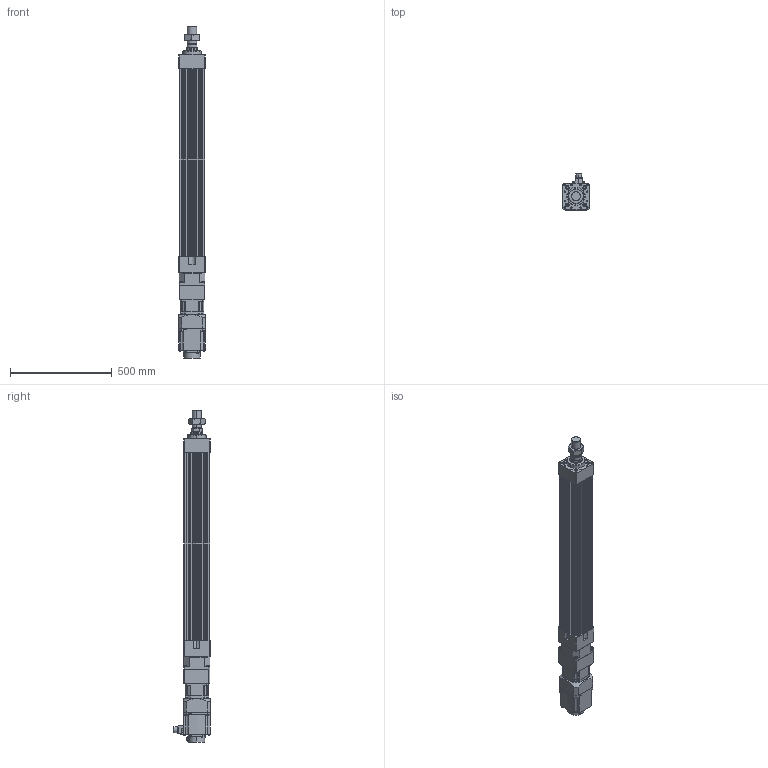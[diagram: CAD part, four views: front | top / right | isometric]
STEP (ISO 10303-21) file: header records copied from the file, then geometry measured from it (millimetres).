
FILE_DESCRIPTION (( 'STEP AP203' ), '1' );
FILE_NAME ('HES130NS(FS)(HS)-S700-W015G00-M.STEP', '2023-01-30T08:29:19', ( 'tms' ), ( '' ), 'SwSTEP 2.0', 'SolidWorks 2013', '' );
FILE_SCHEMA (( 'CONFIG_CONTROL_DESIGN' ));
Length unit declared in the file: millimetre
Products named in the file (8): M45X1.5P; AB1151; P0401400706; HES130NS(FS)(HS)-S700-W015G00-M; HES130-S700-G120; AB115-003[HG-SR152]; HES130 ROD M ST700; HG-SR152
Assembly tree (7 placements, depth 3):
  HES130NS(FS)(HS)-S700-W015G00-M
    HES130-S700-G120
    HES130 ROD M ST700
    M45X1.5P
    AB115-003[HG-SR152]
      AB1151
      P0401400706
    HG-SR152
Bounding box: 130 x 177.49 x 1629.5 mm (x, y, z)
Volume: 12769559 mm3; surface area: 1693689.7 mm2
Topology: 4 solids, 15 shells, 1220 faces, 3076 edges, 1983 vertices
Faces by surface type: cylinder 553, plane 551, cone 104, bspline 8, torus 4
Entity records: 38254 total; most frequent: CARTESIAN_POINT 7242, DIRECTION 6653, ORIENTED_EDGE 6060, EDGE_CURVE 3040, AXIS2_PLACEMENT_3D 2462, VERTEX_POINT 1983, VECTOR 1729, LINE 1729
